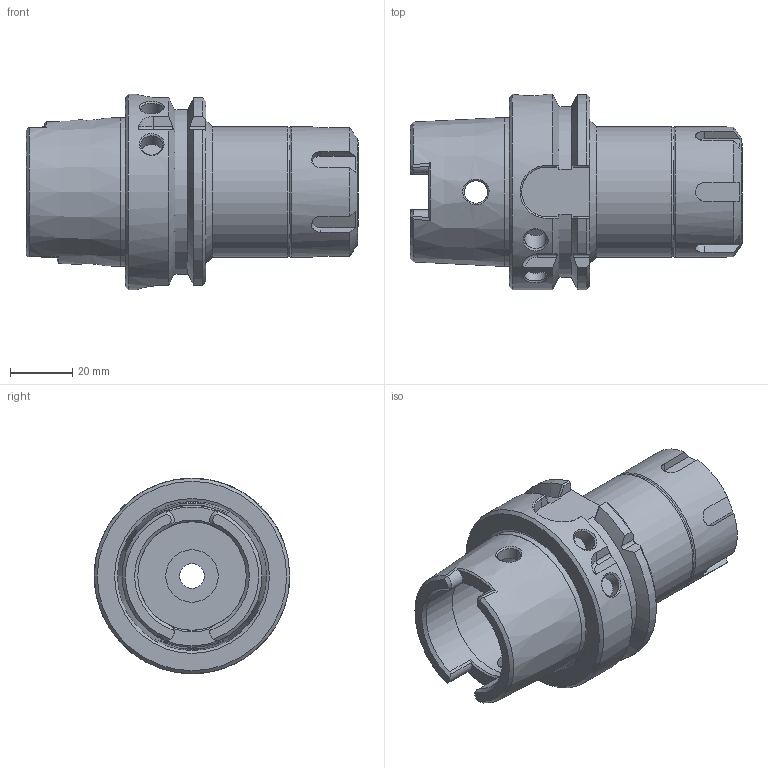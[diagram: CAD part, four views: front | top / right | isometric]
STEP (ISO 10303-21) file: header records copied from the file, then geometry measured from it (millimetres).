
FILE_DESCRIPTION(/* description */ (''),/* implementation_level */ '2;1');
FILE_NAME(/* name */ 'HSK63A-ER25-75.stp',/* time_stamp */ '2025-10-06T10:32:20+03:00',/* author */ ('User'),/* organization */ (''),/* preprocessor_version */ 'ST-DEVELOPER v19.2',/* originating_system */ 'Autodesk Inventor 2024',/* authorisation */ '');
FILE_SCHEMA (('AUTOMOTIVE_DESIGN { 1 0 10303 214 3 1 1 }'));
Length unit declared in the file: millimetre
Products named in the file (3): HSK63A-ER25-75; HSK63A-ER40-75; ER25-M
Assembly tree (2 placements, depth 2):
  HSK63A-ER25-75
    HSK63A-ER40-75
    ER25-M
Bounding box: 107 x 63 x 63 mm (x, y, z)
Volume: 130031.1 mm3; surface area: 37037.7 mm2
Topology: 2 solids, 2 shells, 167 faces, 464 edges, 311 vertices
Faces by surface type: plane 68, cylinder 37, cone 31, bspline 25, torus 6
Full cylindrical faces by diameter (mm): 7 x2, 8 x1, 10 x1, 16.917 x1, 20.535 x1, 25.6 x1, 30.6 x2, 32 x1, 34.96 x2, 38.96 x1, 42 x2, 47.9 x1, 63 x1
Entity records: 7086 total; most frequent: CARTESIAN_POINT 2953, ORIENTED_EDGE 928, DIRECTION 693, EDGE_CURVE 464, VERTEX_POINT 311, AXIS2_PLACEMENT_3D 276, EDGE_LOOP 185, FACE_OUTER_BOUND 167
